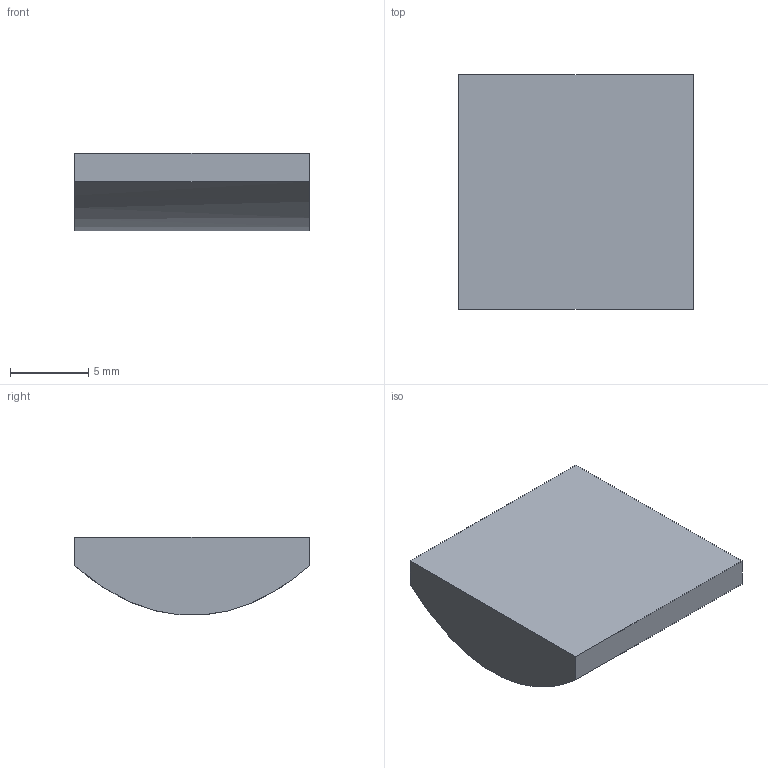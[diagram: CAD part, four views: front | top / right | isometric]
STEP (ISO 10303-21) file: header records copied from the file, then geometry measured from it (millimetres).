
FILE_DESCRIPTION ((), '1');
FILE_NAME ('\\fileserver\Daten\Applikationen\Optikdesign\SPA-Design\aktuelle SPA-Designs\Linsenkataloge - 2016-Juni\Zemax\CHL\CHL15-12.STP', '2016-05-24T14:27:05', ('Unknown'), ('Unknown'), 'HarmonyWare STEP v2.0.1', 'HarmonyWare Translators', '');
FILE_SCHEMA (('CONFIG_CONTROL_DESIGN'));
Length unit declared in the file: millimetre
Products named in the file (1): NONE
Bounding box: 15 x 15 x 4.97 mm (x, y, z)
Volume: 891 mm3; surface area: 648.3 mm2
Topology: 1 solids, 1 shells, 6 faces, 12 edges, 8 vertices
Faces by surface type: plane 3, bspline 3
Entity records: 374 total; most frequent: CARTESIAN_POINT 191, ORIENTED_EDGE 24, B_SPLINE_CURVE_WITH_KNOTS 12, EDGE_CURVE 12, VERTEX_POINT 8, PERSON 8, ORGANIZATION 8, PERSON_AND_ORGANIZATION 8
